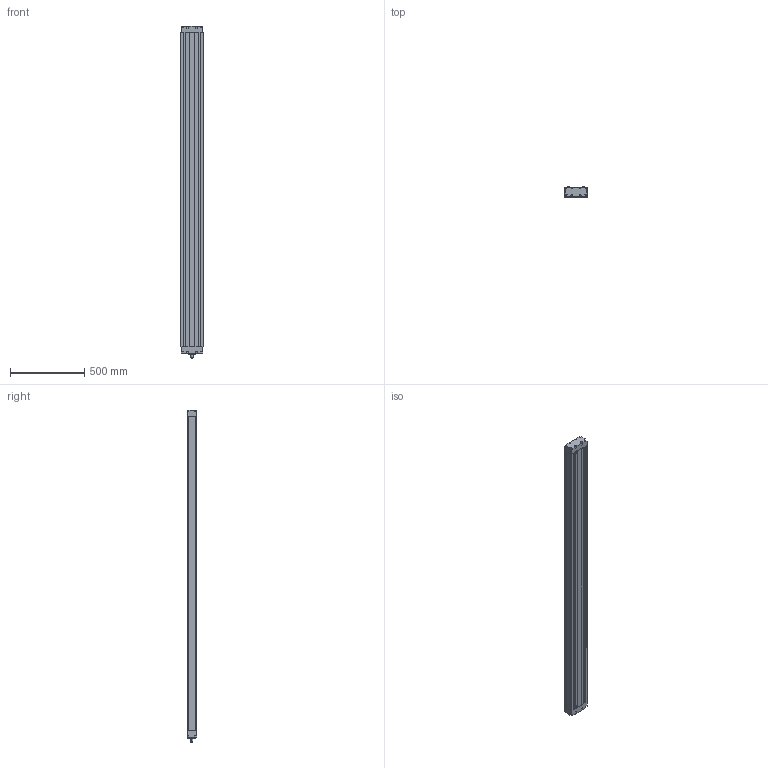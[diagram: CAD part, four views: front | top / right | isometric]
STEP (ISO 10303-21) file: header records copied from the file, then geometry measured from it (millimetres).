
FILE_DESCRIPTION (( 'STEP AP203' ), '1' );
FILE_NAME ('MSY150B-2000-LL2005-P7.STEP', '2013-11-02T03:39:15', ( '微软用户' ), ( '微软中国' ), 'SwSTEP 2.0', 'SolidWorks 2010', '' );
FILE_SCHEMA (( 'CONFIG_CONTROL_DESIGN' ));
Length unit declared in the file: millimetre
Products named in the file (1): MSY150B-2000-LL2005-P7
Bounding box: 150 x 67 x 2241 mm (x, y, z)
Volume: 16991050.3 mm3; surface area: 2076584 mm2
Topology: 1 solids, 1 shells, 309 faces, 837 edges, 538 vertices
Faces by surface type: plane 236, cylinder 61, cone 12
Entity records: 9622 total; most frequent: CARTESIAN_POINT 1677, ORIENTED_EDGE 1658, DIRECTION 1575, EDGE_CURVE 829, VECTOR 703, LINE 703, VERTEX_POINT 538, AXIS2_PLACEMENT_3D 436
